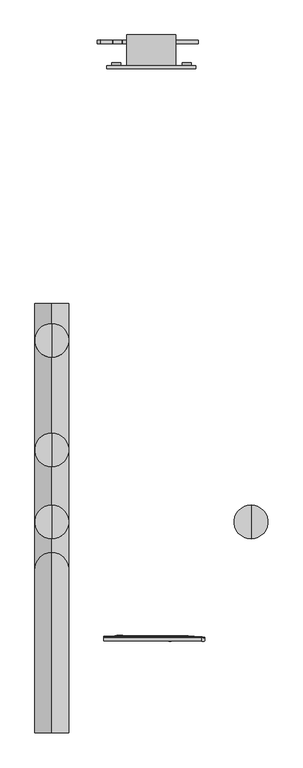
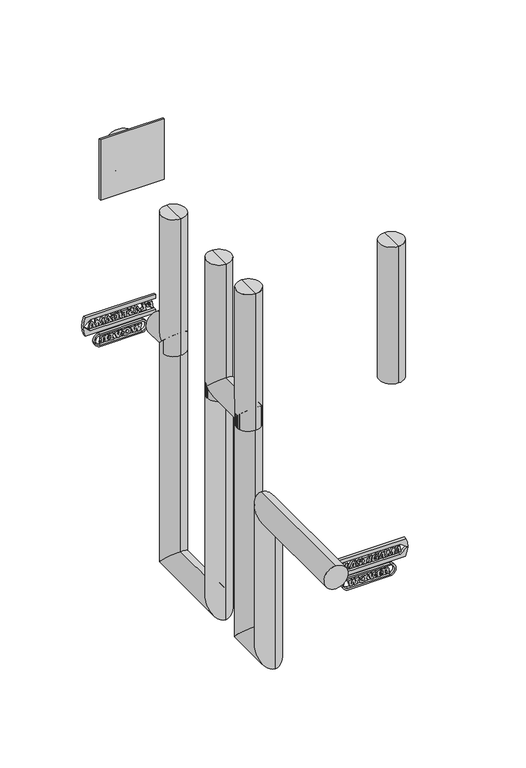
"""IFC4 building model written with IfcOpenShell, lengths in millimetres: pipe fitting geometry, Plastigama Wavin_Biotanque Séptico 4000L : 4000 Litros."""

from ifc_helpers import new_model, si_unit, point, frame, frame_2d, origin, place, context, project, spatial, polyline, circle_curve, ellipse_curve, trimmed, segment, composite_curve, outline, extrude, source, transform, mapped, element, save
from ifc_brep_helpers import plane_surface, cylinder_surface, revolved_surface, advanced_brep


def pipe_fitting_dcdf6bb8(model_context):
    return source(origin(), model_context, "Body", "SolidModel", [
        extrude(outline(composite_curve([segment(trimmed(circle_curve(frame_2d((-189.0646726, 30.0)), 30.8484834), [point((-196.25, 1e-07))], [point((-196.2500001, 60.0))], False, "CARTESIAN"), True, "CONTINUOUS"), segment(polyline([(-196.2500001, 60.0), (0.0, 60.0000001)]), True, "CONTINUOUS"), segment(trimmed(circle_curve(frame_2d((-6.6878433, 30.0000001)), 30.7364157), [point((0.0, 60.0000001))], [point((0.0, 0.0))], False, "CARTESIAN"), True, "CONTINUOUS"), segment(polyline([(0.0, 0.0), (-196.25, 1e-07)]), True, "CONTINUOUS")], self_intersect=False), holes=[composite_curve([segment(trimmed(circle_curve(frame_2d((-6.9912838, 30.3756905)), 23.114551), [point((-2.2890939, 7.7444758))], [point((-2.2890938, 53.0069052))], True, "CARTESIAN"), True, "CONTINUOUS"), segment(polyline([(-2.2890938, 53.0069052), (-193.9944284, 53.0069052)]), True, "CONTINUOUS"), segment(trimmed(circle_curve(frame_2d((-189.1280993, 30.3756905)), 23.1484996), [point((-193.9944284, 53.0069052))], [point((-193.9944284, 7.7444758))], True, "CARTESIAN"), True, "CONTINUOUS"), segment(polyline([(-193.9944284, 7.7444758), (-2.2890939, 7.7444758)]), True, "CONTINUOUS")], self_intersect=False)]), frame((-102.7823908, 1741.8070772, -132.696145), z_axis=(-0.0008784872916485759, -0.9999680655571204, 0.007943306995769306), x_axis=(-0.9999988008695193, 0.0008885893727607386, 0.0012683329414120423)), (0.0, 0.0, 1.0), 11.2802811),
        extrude(outline(polyline([(-34.1331053, 8.1810519), (-34.1331053, 0.0), (-48.2520176, 0.0), (-48.2520176, 8.1810519), (-45.4767498, 8.1810519), (-39.5431558, 30.3255262), (-28.7331703, 30.3255262), (-24.7176721, 16.3218198), (-19.3421529, 30.3255262), (-9.3421529, 30.3255263), (-2.992327, 8.1810519), (0.0, 8.1810519), (0.0, 0.0), (-15.0, 0.0), (-15.0, 8.1810519), (-12.2158905, 8.1810519), (-15.3543311, 19.1260951), (-21.2017652, 0.0), (-28.3819183, 0.0), (-34.1331054, 20.0567725), (-36.6402018, 8.1810519), (-34.1331053, 8.1810519)])), frame((41.5858435, 1740.8946298, -147.7971893), z_axis=(-0.000878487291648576, -0.9999680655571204, 0.007943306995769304), x_axis=(-0.9999988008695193, 0.0008885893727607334, 0.0012683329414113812)), (0.0, 0.0, 1.0), 10.6146407),
        extrude(outline(composite_curve([segment(polyline([(33.8509422, -0.2362593), (33.8509422, 7.596079), (45.2863425, 7.596079), (45.2863425, 5.4010288)]), True, "CONTINUOUS"), segment(trimmed(circle_curve(frame_2d((54.7764159, -7.4699474)), 15.9913578), [point((45.2863425, 5.4010288))], [point((45.2863425, -20.3409237))], False, "CARTESIAN"), True, "CONTINUOUS"), segment(polyline([(45.2863425, -20.3409237), (45.2863425, -22.6856365), (33.8509422, -22.6856365), (33.8509423, -15.2362593), (37.7421676, -15.2362593), (37.7421676, -0.2362593), (33.8509422, -0.2362593)]), True, "CONTINUOUS")], self_intersect=False), holes=[composite_curve([segment(trimmed(circle_curve(frame_2d((54.4639159, -7.4699475)), 7.2516024), [point((54.4639159, -0.2183451))], [point((54.4639159, -14.7215499))], True, "CARTESIAN"), True, "CONTINUOUS"), segment(trimmed(circle_curve(frame_2d((54.4639159, -7.4699475)), 7.2516024), [point((54.4639159, -14.7215499))], [point((54.4639159, -0.2183451))], True, "CARTESIAN"), True, "CONTINUOUS")], self_intersect=False)]), frame((-31.3310135, 1741.3557028, -155.5955693), z_axis=(-0.0008784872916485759, -0.9999680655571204, 0.007943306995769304), x_axis=(0.9999988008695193, -0.0008885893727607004, -0.0012683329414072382)), (0.0, 0.0, 1.0), 11.0735875),
        extrude(outline(polyline([(-2.6440378, 1e-07), (-2.6440378, 7.9272415), (11.9670569, 7.9272415), (11.967057, -0.2362592), (9.4673728, -0.2362593), (13.738381, -11.3626162), (18.0093893, -0.2362592), (15.3814905, -0.2362593), (15.3814905, 7.9272415), (30.3814905, 7.9272415), (30.3814904, -0.2362593), (27.2478162, -0.2362592), (18.6692538, -22.5841782), (8.6692538, -22.5841782), (0.0, 0.0), (-2.6440378, 1e-07)])), frame((-31.3310135, 1741.3557028, -155.5955693), z_axis=(-0.0008784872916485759, -0.9999680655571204, 0.007943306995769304), x_axis=(0.9999988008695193, -0.0008885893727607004, -0.0012683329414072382)), (0.0, 0.0, 1.0), 11.0735875),
        extrude(outline(polyline([(-7.9272415, 16.8316104), (0.0, 16.8316104), (0.0, 0.0), (-7.9272415, 0.0), (-7.9272415, 3.6439569), (-22.6147415, 3.6439569), (-22.6147415, 1e-07), (-30.7234026, 0.0), (-30.7234026, 16.8316104), (-22.6147415, 16.8316104), (-22.6147415, 12.918534), (-7.9272415, 12.918534), (-7.9272415, 16.8316104)])), frame((-39.3981183, 1740.8048559, -147.6534075), z_axis=(-0.0008784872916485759, -0.9999680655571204, 0.007943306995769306), x_axis=(0.0012753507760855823, 0.007942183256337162, 0.9999676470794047)), (0.0, 0.0, 1.0), 10.4525843),
        extrude(outline(composite_curve([segment(polyline([(0.0, 0.0), (-3.2801844, -1e-07), (-3.2801844, -14.2360004), (0.0, -14.2360005), (1e-07, -21.9444339), (-16.860148, -21.9444338), (-16.8601479, -14.2360005), (-12.8583229, -14.2360004), (-12.8583229, -1.5416867)]), True, "CONTINUOUS"), segment(trimmed(circle_curve(frame_2d((-17.6145903, -4.2944218)), 5.495419), [point((-12.8583229, -1.5416867))], [point((-22.3708577, -1.5416867))], True, "CARTESIAN"), True, "CONTINUOUS"), segment(polyline([(-22.3708577, -1.5416867), (-22.3708578, -21.9444339), (-35.4259917, -21.9444338), (-35.4259918, -14.9248391), (-31.6209778, -14.9248392), (-31.6209778, -1.5416867)]), True, "CONTINUOUS"), segment(trimmed(circle_curve(frame_2d((-19.773277, -3.0591523)), 11.9444848), [point((-31.6209778, -1.5416867))], [point((-11.8414658, 5.8715301))], False, "CARTESIAN"), True, "CONTINUOUS"), segment(polyline([(-11.8414658, 5.8715301), (-11.8414657, 8.1270981), (0.0, 8.1270981), (0.0, 0.0)]), True, "CONTINUOUS")], self_intersect=False)), frame((-64.1726779, 1739.8555184, -156.0033396), z_axis=(-0.0008784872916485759, -0.9999680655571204, 0.007943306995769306), x_axis=(0.9999988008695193, -0.0008885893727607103, -0.0012683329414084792)), (0.0, 0.0, 1.0), 9.5478389),
        extrude(outline(composite_curve([segment(polyline([(-18.9036564, 296.6938036), (-43.5540821, 328.2449097), (-70.312308, 296.3556977), (-70.312308, -0.6527597), (-88.1786273, -0.6527598), (-88.1786274, 320.2783114)]), True, "CONTINUOUS"), segment(trimmed(circle_curve(frame_2d((-44.7143136, 220.4821535)), 108.8504464), [point((-88.1786274, 320.2783114))], [point((0.0, 319.7245327))], False, "CARTESIAN"), True, "CONTINUOUS"), segment(polyline([(0.0, 319.7245327), (0.0, 0.0), (-18.9036564, 0.0), (-18.9036564, 296.6938036)]), True, "CONTINUOUS")], self_intersect=False)), frame((152.1039597, 1742.7080568, -31.7348131), z_axis=(-0.000878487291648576, -0.9999680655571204, 0.007943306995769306), x_axis=(0.0012753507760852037, 0.007942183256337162, 0.9999676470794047)), (0.0, 0.0, 1.0), 11.6031795),
        extrude(outline(composite_curve([segment(polyline([(-4.332192, 30.8251478), (0.0, 0.0), (-8.2737197, 0.0), (-10.3763935, 10.817319), (-20.7285738, 10.8173189)]), True, "CONTINUOUS"), segment(trimmed(circle_curve(frame_2d((-20.7285738, 20.8212334)), 10.0039144), [point((-20.7285738, 10.8173189))], [point((-20.7285738, 30.8251479))], False, "CARTESIAN"), True, "CONTINUOUS"), segment(polyline([(-20.7285738, 30.8251479), (-4.332192, 30.8251478)]), True, "CONTINUOUS")], self_intersect=False), holes=[composite_curve([segment(polyline([(-11.3887881, 16.0256373), (-13.1268956, 24.9674251), (-17.9655042, 24.9674251)]), True, "CONTINUOUS"), segment(trimmed(circle_curve(frame_2d((-16.7088179, 20.5848391)), 4.5592018), [point((-17.9655042, 24.9674251))], [point((-16.7088179, 16.0256373))], True, "CARTESIAN"), True, "CONTINUOUS"), segment(polyline([(-16.7088179, 16.0256373), (-11.3887881, 16.0256373)]), True, "CONTINUOUS")], self_intersect=False)]), frame((141.1688028, 1741.3340665, -89.3467937), z_axis=(-0.000878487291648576, -0.9999680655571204, 0.007943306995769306), x_axis=(0.9999988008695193, -0.0008885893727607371, -0.0012683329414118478)), (0.0, 0.0, 1.0), 10.6772563),
        extrude(outline(polyline([(-10.8995452, -1e-07), (-15.7717934, 30.7621641), (5.0878918, 30.7621641), (6.1998786, 23.7413552), (-4.2824174, 23.7413553), (0.0, 0.0), (-10.8995452, -1e-07)])), frame((95.132617, 1742.7316758, -58.9097224), z_axis=(-0.0008784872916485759, -0.9999680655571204, 0.007943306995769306), x_axis=(-0.9999988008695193, 0.0008885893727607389, 0.0012683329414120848)), (0.0, 0.0, 1.0), 11.7926078),
        extrude(outline(polyline([(0.0, 0.0), (-7.3290033, 0.0), (-24.0167722, 31.0334185), (-15.9588188, 31.0334184), (-11.4796914, 24.136167), (-3.9958915, 24.1361671), (-2.1477786, 31.0334184), (6.5963567, 31.0334184), (0.0, 0.0)]), holes=[polyline([(-4.6930916, 19.2382366), (-9.282557, 19.2382365), (-5.5528379, 11.0582979), (-4.6930916, 19.2382366)])]), frame((64.018782, 1743.0869542, -58.8728618), z_axis=(-0.0008784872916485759, -0.9999680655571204, 0.007943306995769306), x_axis=(-0.9999988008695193, 0.0008885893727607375, 0.0012683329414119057)), (0.0, 0.0, 1.0), 12.120249),
        extrude(outline(composite_curve([segment(polyline([(12.7137426, -6.4894217), (8.0476633, -7.7396939)]), True, "CONTINUOUS"), segment(trimmed(circle_curve(frame_2d((2.7717709, 11.9502044)), 20.3844826), [point((8.0476633, -7.7396939))], [point((0.9951462, -8.3567092))], False, "CARTESIAN"), True, "CONTINUOUS"), segment(trimmed(circle_curve(frame_2d((2.7717709, 11.9502044)), 20.3844826), [point((0.9951462, -8.3567092))], [point((-7.427458, -5.6992394))], False, "CARTESIAN"), True, "CONTINUOUS"), segment(trimmed(circle_curve(frame_2d((-3.1968098, 1.6217638)), 8.4554994), [point((-7.427458, -5.6992394))], [point((-7.427458, 8.9427669))], False, "CARTESIAN"), True, "CONTINUOUS"), segment(trimmed(circle_curve(frame_2d((5.4541897, -10.069867)), 22.9655632), [point((-7.427458, 8.9427669))], [point((-1.8730258, 11.6954497))], False, "CARTESIAN"), True, "CONTINUOUS"), segment(trimmed(circle_curve(frame_2d((-2.9769476, 14.9746224)), 3.4600025), [point((-1.8730258, 11.6954497))], [point((-2.9769476, 18.434625))], True, "CARTESIAN"), True, "CONTINUOUS"), segment(trimmed(circle_curve(frame_2d((-2.9769476, -10.5235118)), 28.9581368), [point((-2.9769476, 18.434625))], [point((-7.1467158, 18.1328438))], True, "CARTESIAN"), True, "CONTINUOUS"), segment(polyline([(-7.1467158, 18.1328438), (-11.8031787, 17.5611021), (-12.7835533, 23.1210826), (-1.0542921, 24.14726)]), True, "CONTINUOUS"), segment(trimmed(circle_curve(frame_2d((0.0, 12.0966458)), 12.0966457), [point((-1.0542921, 24.14726))], [point((10.9632843, 17.2089091))], False, "CARTESIAN"), True, "CONTINUOUS"), segment(trimmed(circle_curve(frame_2d((0.8993937, 15.2821186)), 10.2466782), [point((10.9632843, 17.2089091))], [point((4.2626893, 5.6031384))], False, "CARTESIAN"), True, "CONTINUOUS"), segment(trimmed(circle_curve(frame_2d((9.4826877, -9.4191095)), 15.9033429), [point((4.2626893, 5.6031384))], [point((-0.2838269, 3.132046))], True, "CARTESIAN"), True, "CONTINUOUS"), segment(trimmed(circle_curve(frame_2d((2.1805754, 0.7747878)), 3.4102706), [point((-0.2838269, 3.132046))], [point((1.2249696, -2.4988589))], True, "CARTESIAN"), True, "CONTINUOUS"), segment(trimmed(circle_curve(frame_2d((4.9941454, 10.4133157)), 13.4510572), [point((1.2249696, -2.4988589))], [point((11.7810709, -1.1999776))], True, "CARTESIAN"), True, "CONTINUOUS"), segment(polyline([(11.7810709, -1.1999776), (12.7137426, -6.4894217)]), True, "CONTINUOUS")], self_intersect=False)), frame((42.0481592, 1742.9359168, -82.3891812), z_axis=(-0.000878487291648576, -0.9999680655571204, 0.007943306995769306), x_axis=(0.9999988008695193, -0.0008885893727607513, -0.0012683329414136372)), (0.0, 0.0, 1.0), 12.1367128),
        extrude(outline(polyline([(-14.7964454, 16.029724), (-23.7333973, 16.029724), (-20.354468, -8.0126068), (-29.0288642, -8.0126068), (-33.2681758, 16.029724), (-42.2470344, 16.029724), (-43.1507302, 22.4598536), (-16.062117, 23.2077044), (-14.7964454, 16.029724)])), frame((42.0481592, 1742.9359168, -82.3891812), z_axis=(-0.000878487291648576, -0.9999680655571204, 0.007943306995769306), x_axis=(0.9999988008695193, -0.0008885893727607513, -0.0012683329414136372)), (0.0, 0.0, 1.0), 12.1367128),
        extrude(outline(polyline([(-46.6944716, 23.1003275), (-41.7524154, -8.1025868), (-50.4735856, -8.1025868), (-56.4862713, 22.8299997), (-46.6944716, 23.1003275)])), frame((42.0481592, 1742.9359168, -82.3891812), z_axis=(-0.000878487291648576, -0.9999680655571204, 0.007943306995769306), x_axis=(0.9999988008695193, -0.0008885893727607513, -0.0012683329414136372)), (0.0, 0.0, 1.0), 12.1367128),
        extrude(outline(composite_curve([segment(polyline([(-74.3565668, 3.2336027), (-77.7440094, 3.2336027), (-77.3106508, -0.2958194)]), True, "CONTINUOUS"), segment(trimmed(circle_curve(frame_2d((-74.69669, 0.0251346)), 2.6335912), [point((-77.3106508, -0.2958194))], [point((-74.6966901, -2.6084566))], True, "CARTESIAN"), True, "CONTINUOUS"), segment(trimmed(circle_curve(frame_2d((-73.4766928, 2.1577849)), 4.9199036), [point((-74.6966901, -2.6084566))], [point((-70.3548398, -1.644778))], True, "CARTESIAN"), True, "CONTINUOUS"), segment(trimmed(circle_curve(frame_2d((-77.4207931, 6.9618835)), 11.1356328), [point((-70.3548398, -1.644778))], [point((-71.8260664, 16.5900376))], True, "CARTESIAN"), True, "CONTINUOUS"), segment(trimmed(circle_curve(frame_2d((-76.3575671, 8.791625)), 9.0194089), [point((-71.8260664, 16.5900376))], [point((-78.5368608, 17.5437913))], True, "CARTESIAN"), True, "CONTINUOUS"), segment(polyline([(-78.5368608, 17.5437913), (-85.4705308, 16.5211907), (-86.7633388, 22.1209572), (-79.8280568, 22.9725028), (-73.8048094, 22.9725028)]), True, "CONTINUOUS"), segment(trimmed(circle_curve(frame_2d((-73.8048095, 6.3176782)), 16.6548245), [point((-73.8048094, 22.9725028))], [point((-59.6807172, 15.1433906))], False, "CARTESIAN"), True, "CONTINUOUS"), segment(trimmed(circle_curve(frame_2d((-75.305543, 5.3799159)), 18.424457), [point((-59.6807172, 15.1433906))], [point((-59.6807172, -4.3835588))], False, "CARTESIAN"), True, "CONTINUOUS"), segment(trimmed(circle_curve(frame_2d((-67.6003995, 0.5652079)), 9.3387183), [point((-59.6807172, -4.3835588))], [point((-68.9000979, -8.6826267))], False, "CARTESIAN"), True, "CONTINUOUS"), segment(polyline([(-68.9000979, -8.6826267), (-77.6936608, -8.6826266)]), True, "CONTINUOUS"), segment(trimmed(circle_curve(frame_2d((-77.6936607, 8.7925392)), 17.4751659), [point((-77.6936608, -8.6826266))], [point((-82.1203753, -8.1126558))], False, "CARTESIAN"), True, "CONTINUOUS"), segment(trimmed(circle_curve(frame_2d((-80.7914793, -4.3784573)), 3.96361), [point((-82.1203753, -8.1126558))], [point((-84.6822666, -5.1347496))], False, "CARTESIAN"), True, "CONTINUOUS"), segment(polyline([(-84.6822666, -5.1347496), (-87.2798035, 8.228419), (-74.7294058, 8.5654474), (-74.3565668, 3.2336027)]), True, "CONTINUOUS")], self_intersect=False)), frame((42.0481592, 1742.9359168, -82.3891812), z_axis=(-0.000878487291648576, -0.9999680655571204, 0.007943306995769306), x_axis=(0.9999988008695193, -0.0008885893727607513, -0.0012683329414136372)), (0.0, 0.0, 1.0), 12.1367128),
        extrude(outline(polyline([(-101.9819707, 22.1753677), (-85.574484, -8.6826266), (-94.2981877, -8.6826266), (-98.0221563, -1.6788603), (-106.1115752, -1.6788603), (-107.6002716, -8.6826267), (-116.4084529, -8.6826267), (-109.8493838, 22.1753677), (-101.9819707, 22.1753677)]), holes=[polyline([(-100.4551236, 2.8968857), (-103.8706502, 10.9433621), (-104.6265237, 2.8968857), (-100.4551236, 2.8968857)])]), frame((42.0481592, 1742.9359168, -82.3891812), z_axis=(-0.000878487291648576, -0.9999680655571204, 0.007943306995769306), x_axis=(0.9999988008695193, -0.0008885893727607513, -0.0012683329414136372)), (0.0, 0.0, 1.0), 12.1367128),
        extrude(outline(polyline([(-35.1817795, 0.0), (-42.8755416, 30.8579944), (-34.5793594, 30.8579944), (-30.3629946, 16.1537828), (-24.7185767, 30.8579944), (-19.2315156, 30.8579944), (-10.4172276, 17.285181), (-11.1285486, 30.8579943), (-1.617199, 30.8579944), (0.0, 0.0), (-7.4654929, 1e-07), (-20.8577378, 20.6222487), (-27.5583125, 0.0), (-35.1817795, 0.0)])), frame((-118.6484762, 1742.5430544, -60.0050245), z_axis=(-0.000878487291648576, -0.9999680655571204, 0.007943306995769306), x_axis=(-0.9999988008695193, 0.0008885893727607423, 0.001268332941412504)), (0.0, 0.0, 1.0), 11.4248888),
        extrude(outline(polyline([(-7.0835339, -1e-07), (-23.7062284, 31.2627414), (-15.0083886, 31.2627413), (-11.0043234, 25.0970217), (-3.5534936, 25.0970217), (-2.130025, 31.2627414), (7.2175726, 31.2627413), (0.0, 0.0), (-7.0835339, -1e-07)]), holes=[polyline([(-5.8169341, 11.5609118), (-4.7125902, 20.0764225), (-9.4315539, 20.0764225), (-5.8169341, 11.5609118)])]), frame((-141.6146018, 1740.9124283, -60.1309928), z_axis=(-0.000878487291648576, -0.9999680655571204, 0.007943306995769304), x_axis=(-0.9999988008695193, 0.0008885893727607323, 0.0012683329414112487)), (0.0, 0.0, 1.0), 9.7751399),
        extrude(outline(composite_curve([segment(trimmed(circle_curve(frame_2d((-189.0646725, 30.0)), 30.8484834), [point((-196.2499999, -1e-07))], [point((-196.25, 59.9999999))], False, "CARTESIAN"), True, "CONTINUOUS"), segment(polyline([(-196.25, 59.9999999), (1e-07, 60.0)]), True, "CONTINUOUS"), segment(trimmed(circle_curve(frame_2d((-6.6878432, 30.0)), 30.7364157), [point((1e-07, 60.0))], [point((0.0, 0.0))], False, "CARTESIAN"), True, "CONTINUOUS"), segment(polyline([(0.0, 0.0), (-196.2499999, -1e-07)]), True, "CONTINUOUS")], self_intersect=False), holes=[composite_curve([segment(trimmed(circle_curve(frame_2d((-6.9912837, 30.3756904)), 23.114551), [point((-2.2890938, 7.7444758))], [point((-2.2890938, 53.0069051))], True, "CARTESIAN"), True, "CONTINUOUS"), segment(polyline([(-2.2890938, 53.0069051), (-193.9944284, 53.0069051)]), True, "CONTINUOUS"), segment(trimmed(circle_curve(frame_2d((-189.1280993, 30.3756905)), 23.1484996), [point((-193.9944284, 53.0069051))], [point((-193.9944283, 7.7444758))], True, "CARTESIAN"), True, "CONTINUOUS"), segment(polyline([(-193.9944283, 7.7444758), (-2.2890938, 7.7444758)]), True, "CONTINUOUS")], self_intersect=False)]), frame((99.9199347, -216.0308195, -126.9022338), z_axis=(0.006265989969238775, 0.9991793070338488, 0.0400181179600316), x_axis=(0.9999796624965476, -0.00630851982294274, 0.0009365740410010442)), (0.0, 0.0, 1.0), 11.2802811),
        extrude(outline(polyline([(-34.1331053, 8.1810519), (-34.1331053, 0.0), (-48.2520175, 0.0), (-48.2520174, 8.1810519), (-45.4767498, 8.1810519), (-39.5431557, 30.3255263), (-28.7331703, 30.3255263), (-24.7176721, 16.3218199), (-19.3421528, 30.3255263), (-9.3421528, 30.3255263), (-2.992327, 8.181052), (0.0, 8.181052), (0.0, 0.0), (-15.0, 0.0), (-15.0, 8.181052), (-12.2158905, 8.1810519), (-15.3543311, 19.1260951), (-21.2017652, 0.0), (-28.3819183, 0.0), (-34.1331053, 20.0567725), (-36.6402019, 8.1810519), (-34.1331053, 8.1810519)])), frame((-44.4432498, -213.8577327, -141.9225474), z_axis=(0.0062659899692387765, 0.9991793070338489, 0.040018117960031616), x_axis=(0.9999796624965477, -0.006308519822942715, 0.0009365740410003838)), (0.0, 0.0, 1.0), 10.6146407),
        extrude(outline(composite_curve([segment(polyline([(33.8509422, -0.2362593), (33.8509422, 7.596079), (45.2863425, 7.596079), (45.2863425, 5.4010288)]), True, "CONTINUOUS"), segment(trimmed(circle_curve(frame_2d((54.7764159, -7.4699475)), 15.9913578), [point((45.2863425, 5.4010288))], [point((45.2863425, -20.3409237))], False, "CARTESIAN"), True, "CONTINUOUS"), segment(polyline([(45.2863425, -20.3409237), (45.2863425, -22.6856365), (33.8509422, -22.6856365), (33.8509422, -15.2362593), (37.7421675, -15.2362593), (37.7421676, -0.2362593), (33.8509422, -0.2362593)]), True, "CONTINUOUS")], self_intersect=False), holes=[composite_curve([segment(trimmed(circle_curve(frame_2d((54.4639159, -7.4699476)), 7.2516024), [point((54.4639159, -0.2183451))], [point((54.4639159, -14.7215499))], True, "CARTESIAN"), True, "CONTINUOUS"), segment(trimmed(circle_curve(frame_2d((54.4639159, -7.4699476)), 7.2516024), [point((54.4639159, -14.7215499))], [point((54.4639159, -0.2183451))], True, "CARTESIAN"), True, "CONTINUOUS")], self_intersect=False)]), frame((28.4690524, -214.4606513, -149.7537692), z_axis=(0.0062659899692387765, 0.9991793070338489, 0.040018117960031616), x_axis=(-0.9999796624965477, 0.0063085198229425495, -0.0009365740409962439)), (0.0, 0.0, 1.0), 11.0735875),
        extrude(outline(polyline([(-2.6440378, 1e-07), (-2.6440378, 7.9272415), (11.967057, 7.9272415), (11.9670569, -0.2362593), (9.4673727, -0.2362593), (13.738381, -11.3626163), (18.0093892, -0.2362593), (15.3814905, -0.2362593), (15.3814905, 7.9272415), (30.3814905, 7.9272415), (30.3814904, -0.2362593), (27.2478161, -0.2362593), (18.6692538, -22.5841782), (8.6692538, -22.5841783), (0.0, 0.0), (-2.6440378, 1e-07)])), frame((28.4690524, -214.4606513, -149.7537692), z_axis=(0.0062659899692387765, 0.9991793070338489, 0.040018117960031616), x_axis=(-0.9999796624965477, 0.0063085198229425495, -0.0009365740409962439)), (0.0, 0.0, 1.0), 11.0735875),
        extrude(outline(polyline([(-7.9272414, 16.8316104), (0.0, 16.8316104), (0.0, 0.0), (-7.9272415, 0.0), (-7.9272415, 3.6439569), (-22.6147415, 3.6439569), (-22.6147415, 0.0), (-30.7234025, 0.0), (-30.7234026, 16.8316104), (-22.6147414, 16.8316104), (-22.6147414, 12.9185339), (-7.9272414, 12.9185339), (-7.9272414, 16.8316104)])), frame((36.5400387, -214.2082899, -141.8004655), z_axis=(0.0062659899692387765, 0.9991793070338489, 0.040018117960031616), x_axis=(-0.0011882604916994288, -0.04001143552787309, 0.9991985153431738)), (0.0, 0.0, 1.0), 10.4525843),
        extrude(outline(composite_curve([segment(polyline([(0.0, 0.0), (-3.2801844, 0.0), (-3.2801844, -14.2360005), (1e-07, -14.2360004), (0.0, -21.9444338), (-16.8601479, -21.9444338), (-16.8601479, -14.2360004), (-12.8583229, -14.2360004), (-12.8583229, -1.5416867)]), True, "CONTINUOUS"), segment(trimmed(circle_curve(frame_2d((-17.6145903, -4.2944218)), 5.495419), [point((-12.8583229, -1.5416867))], [point((-22.3708577, -1.5416867))], True, "CARTESIAN"), True, "CONTINUOUS"), segment(polyline([(-22.3708577, -1.5416867), (-22.3708578, -21.9444339), (-35.4259918, -21.9444339), (-35.4259918, -14.9248392), (-31.6209778, -14.9248392), (-31.6209779, -1.5416867)]), True, "CONTINUOUS"), segment(trimmed(circle_curve(frame_2d((-19.773277, -3.0591523)), 11.9444848), [point((-31.6209779, -1.5416867))], [point((-11.8414657, 5.8715301))], False, "CARTESIAN"), True, "CONTINUOUS"), segment(polyline([(-11.8414657, 5.8715301), (-11.8414657, 8.1270981), (0.0, 8.1270981), (0.0, 0.0)]), True, "CONTINUOUS")], self_intersect=False)), frame((61.3182681, -213.1248577, -150.1231413), z_axis=(0.0062659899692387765, 0.9991793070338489, 0.040018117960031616), x_axis=(-0.9999796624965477, 0.006308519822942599, -0.0009365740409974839)), (0.0, 0.0, 1.0), 9.5478389),
        extrude(outline(composite_curve([segment(polyline([(-18.9036564, 296.6938035), (-43.5540821, 328.2449096), (-70.3123081, 296.3556977), (-70.3123081, -0.6527598), (-88.1786274, -0.6527598), (-88.1786274, 320.2783113)]), True, "CONTINUOUS"), segment(trimmed(circle_curve(frame_2d((-44.7143137, 220.4821535)), 108.8504464), [point((-88.1786274, 320.2783113))], [point((0.0, 319.7245327))], False, "CARTESIAN"), True, "CONTINUOUS"), segment(polyline([(0.0, 319.7245327), (0.0, 0.0), (-18.9036565, -1e-07), (-18.9036564, 296.6938035)]), True, "CONTINUOUS")], self_intersect=False)), frame((-154.9544583, -218.799082, -25.9446463), z_axis=(0.0062659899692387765, 0.9991793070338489, 0.040018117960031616), x_axis=(-0.00118826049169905, -0.04001143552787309, 0.9991985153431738)), (0.0, 0.0, 1.0), 11.6031795),
        extrude(outline(composite_curve([segment(polyline([(-4.332192, 30.825148), (0.0, 0.0), (-8.2737197, 1e-07), (-10.3763935, 10.8173191), (-20.7285739, 10.8173191)]), True, "CONTINUOUS"), segment(trimmed(circle_curve(frame_2d((-20.7285738, 20.8212335)), 10.0039144), [point((-20.7285739, 10.8173191))], [point((-20.7285738, 30.8251479))], False, "CARTESIAN"), True, "CONTINUOUS"), segment(polyline([(-20.7285738, 30.8251479), (-4.332192, 30.825148)]), True, "CONTINUOUS")], self_intersect=False), holes=[composite_curve([segment(polyline([(-11.3887881, 16.0256374), (-13.1268955, 24.9674252), (-17.9655042, 24.9674252)]), True, "CONTINUOUS"), segment(trimmed(circle_curve(frame_2d((-16.7088179, 20.5848392)), 4.5592018), [point((-17.9655042, 24.9674252))], [point((-16.7088178, 16.0256374))], True, "CARTESIAN"), True, "CONTINUOUS"), segment(polyline([(-16.7088178, 16.0256374), (-11.3887881, 16.0256374)]), True, "CONTINUOUS")], self_intersect=False)]), frame((-144.0195403, -215.6363765, -83.4862025), z_axis=(0.0062659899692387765, 0.9991793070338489, 0.040018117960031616), x_axis=(-0.9999796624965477, 0.006308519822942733, -0.00093657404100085)), (0.0, 0.0, 1.0), 10.6772563),
        extrude(outline(polyline([(-10.8995453, 1e-07), (-15.7717934, 30.7621641), (5.0878917, 30.7621641), (6.1998786, 23.7413553), (-4.2824174, 23.7413553), (0.0, 0.0), (-10.8995453, 1e-07)])), frame((-97.9875987, -218.2573703, -53.1235646), z_axis=(0.006265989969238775, 0.9991793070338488, 0.0400181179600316), x_axis=(0.9999796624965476, -0.006308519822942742, 0.0009365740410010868)), (0.0, 0.0, 1.0), 11.7926078),
        extrude(outline(polyline([(0.0, 0.0), (-7.3290033, 0.0), (-24.0167721, 31.0334184), (-15.9588188, 31.0334184), (-11.4796914, 24.136167), (-3.9958915, 24.136167), (-2.1477786, 31.0334185), (6.5963567, 31.0334184), (0.0, 0.0)]), holes=[polyline([(-4.6930917, 19.2382365), (-9.282557, 19.2382366), (-5.5528379, 11.0582979), (-4.6930917, 19.2382365)])]), frame((-66.8761244, -218.781027, -53.1075355), z_axis=(0.0062659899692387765, 0.9991793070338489, 0.040018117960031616), x_axis=(0.9999796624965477, -0.006308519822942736, 0.0009365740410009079)), (0.0, 0.0, 1.0), 12.120249),
        extrude(outline(composite_curve([segment(polyline([(12.7137427, -6.4894217), (8.0476632, -7.7396939)]), True, "CONTINUOUS"), segment(trimmed(circle_curve(frame_2d((2.7717709, 11.9502043)), 20.3844826), [point((8.0476632, -7.7396939))], [point((0.9951462, -8.3567092))], False, "CARTESIAN"), True, "CONTINUOUS"), segment(trimmed(circle_curve(frame_2d((2.7717709, 11.9502043)), 20.3844826), [point((0.9951462, -8.3567092))], [point((-7.427458, -5.6992393))], False, "CARTESIAN"), True, "CONTINUOUS"), segment(trimmed(circle_curve(frame_2d((-3.1968098, 1.6217638)), 8.4554994), [point((-7.427458, -5.6992393))], [point((-7.427458, 8.9427669))], False, "CARTESIAN"), True, "CONTINUOUS"), segment(trimmed(circle_curve(frame_2d((5.4541896, -10.069867)), 22.9655632), [point((-7.427458, 8.9427669))], [point((-1.8730258, 11.6954496))], False, "CARTESIAN"), True, "CONTINUOUS"), segment(trimmed(circle_curve(frame_2d((-2.9769476, 14.9746224)), 3.4600025), [point((-1.8730258, 11.6954496))], [point((-2.9769476, 18.4346249))], True, "CARTESIAN"), True, "CONTINUOUS"), segment(trimmed(circle_curve(frame_2d((-2.9769476, -10.5235119)), 28.9581368), [point((-2.9769476, 18.4346249))], [point((-7.1467158, 18.1328438))], True, "CARTESIAN"), True, "CONTINUOUS"), segment(polyline([(-7.1467158, 18.1328438), (-11.8031787, 17.561102), (-12.7835533, 23.1210826), (-1.0542921, 24.14726)]), True, "CONTINUOUS"), segment(trimmed(circle_curve(frame_2d((0.0, 12.0966457)), 12.0966457), [point((-1.0542921, 24.14726))], [point((10.9632842, 17.2089091))], False, "CARTESIAN"), True, "CONTINUOUS"), segment(trimmed(circle_curve(frame_2d((0.8993938, 15.2821184)), 10.2466782), [point((10.9632842, 17.2089091))], [point((4.2626894, 5.6031384))], False, "CARTESIAN"), True, "CONTINUOUS"), segment(trimmed(circle_curve(frame_2d((9.4826878, -9.4191095)), 15.9033429), [point((4.2626894, 5.6031384))], [point((-0.2838269, 3.1320461))], True, "CARTESIAN"), True, "CONTINUOUS"), segment(trimmed(circle_curve(frame_2d((2.1805754, 0.7747878)), 3.4102706), [point((-0.2838269, 3.1320461))], [point((1.2249696, -2.4988589))], True, "CARTESIAN"), True, "CONTINUOUS"), segment(trimmed(circle_curve(frame_2d((4.9941453, 10.4133157)), 13.4510572), [point((1.2249696, -2.4988589))], [point((11.781071, -1.1999776))], True, "CARTESIAN"), True, "CONTINUOUS"), segment(polyline([(11.781071, -1.1999776), (12.7137427, -6.4894217)]), True, "CONTINUOUS")], self_intersect=False)), frame((-44.9080607, -217.9938298, -76.6135529), z_axis=(0.006265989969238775, 0.9991793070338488, 0.04001811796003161), x_axis=(-0.9999796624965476, 0.0063085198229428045, -0.0009365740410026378)), (0.0, 0.0, 1.0), 12.1367128),
        extrude(outline(polyline([(-14.7964454, 16.0297239), (-23.7333973, 16.0297239), (-20.354468, -8.0126068), (-29.0288642, -8.0126069), (-33.2681759, 16.029724), (-42.2470344, 16.0297239), (-43.1507302, 22.4598537), (-16.062117, 23.2077044), (-14.7964454, 16.0297239)])), frame((-44.9080607, -217.9938298, -76.6135529), z_axis=(0.006265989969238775, 0.9991793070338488, 0.04001811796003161), x_axis=(-0.9999796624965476, 0.0063085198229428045, -0.0009365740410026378)), (0.0, 0.0, 1.0), 12.1367128),
        extrude(outline(polyline([(-46.6944716, 23.1003275), (-41.7524155, -8.1025868), (-50.4735855, -8.1025868), (-56.4862713, 22.8299997), (-46.6944716, 23.1003275)])), frame((-44.9080607, -217.9938298, -76.6135529), z_axis=(0.006265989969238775, 0.9991793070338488, 0.04001811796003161), x_axis=(-0.9999796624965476, 0.0063085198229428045, -0.0009365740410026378)), (0.0, 0.0, 1.0), 12.1367128),
        extrude(outline(composite_curve([segment(polyline([(-74.3565669, 3.2336027), (-77.7440094, 3.2336027), (-77.3106508, -0.2958194)]), True, "CONTINUOUS"), segment(trimmed(circle_curve(frame_2d((-74.69669, 0.0251346)), 2.6335912), [point((-77.3106508, -0.2958194))], [point((-74.69669, -2.6084566))], True, "CARTESIAN"), True, "CONTINUOUS"), segment(trimmed(circle_curve(frame_2d((-73.4766928, 2.1577849)), 4.9199036), [point((-74.69669, -2.6084566))], [point((-70.3548397, -1.644778))], True, "CARTESIAN"), True, "CONTINUOUS"), segment(trimmed(circle_curve(frame_2d((-77.4207931, 6.9618834)), 11.1356328), [point((-70.3548397, -1.644778))], [point((-71.8260663, 16.5900375))], True, "CARTESIAN"), True, "CONTINUOUS"), segment(trimmed(circle_curve(frame_2d((-76.3575671, 8.7916249)), 9.0194089), [point((-71.8260663, 16.5900375))], [point((-78.5368607, 17.5437913))], True, "CARTESIAN"), True, "CONTINUOUS"), segment(polyline([(-78.5368607, 17.5437913), (-85.4705308, 16.5211906), (-86.7633388, 22.1209571), (-79.8280568, 22.9725027), (-73.8048094, 22.9725027)]), True, "CONTINUOUS"), segment(trimmed(circle_curve(frame_2d((-73.8048095, 6.3176783)), 16.6548245), [point((-73.8048094, 22.9725027))], [point((-59.6807172, 15.1433906))], False, "CARTESIAN"), True, "CONTINUOUS"), segment(trimmed(circle_curve(frame_2d((-75.305543, 5.3799158)), 18.424457), [point((-59.6807172, 15.1433906))], [point((-59.6807172, -4.3835589))], False, "CARTESIAN"), True, "CONTINUOUS"), segment(trimmed(circle_curve(frame_2d((-67.6003995, 0.5652079)), 9.3387183), [point((-59.6807172, -4.3835589))], [point((-68.9000979, -8.6826266))], False, "CARTESIAN"), True, "CONTINUOUS"), segment(polyline([(-68.9000979, -8.6826266), (-77.6936608, -8.6826267)]), True, "CONTINUOUS"), segment(trimmed(circle_curve(frame_2d((-77.6936607, 8.7925392)), 17.4751659), [point((-77.6936608, -8.6826267))], [point((-82.1203753, -8.1126559))], False, "CARTESIAN"), True, "CONTINUOUS"), segment(trimmed(circle_curve(frame_2d((-80.7914793, -4.3784573)), 3.96361), [point((-82.1203753, -8.1126559))], [point((-84.6822666, -5.1347496))], False, "CARTESIAN"), True, "CONTINUOUS"), segment(polyline([(-84.6822666, -5.1347496), (-87.2798035, 8.228419), (-74.7294058, 8.5654474), (-74.3565669, 3.2336027)]), True, "CONTINUOUS")], self_intersect=False)), frame((-44.9080607, -217.9938298, -76.6135529), z_axis=(0.006265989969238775, 0.9991793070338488, 0.04001811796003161), x_axis=(-0.9999796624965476, 0.0063085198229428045, -0.0009365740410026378)), (0.0, 0.0, 1.0), 12.1367128),
        extrude(outline(polyline([(-101.9819707, 22.1753677), (-85.574484, -8.6826266), (-94.2981877, -8.6826266), (-98.0221562, -1.6788604), (-106.1115751, -1.6788604), (-107.6002716, -8.6826267), (-116.4084529, -8.6826266), (-109.8493838, 22.1753676), (-101.9819707, 22.1753677)]), holes=[polyline([(-100.4551236, 2.8968856), (-103.8706501, 10.9433621), (-104.6265237, 2.8968856), (-100.4551236, 2.8968856)])]), frame((-44.9080607, -217.9938298, -76.6135529), z_axis=(0.006265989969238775, 0.9991793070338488, 0.04001811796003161), x_axis=(-0.9999796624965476, 0.0063085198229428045, -0.0009365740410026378)), (0.0, 0.0, 1.0), 12.1367128),
        extrude(outline(polyline([(-35.1817795, 0.0), (-42.8755416, 30.8579944), (-34.5793595, 30.8579944), (-30.3629947, 16.1537828), (-24.7185767, 30.8579943), (-19.2315157, 30.8579944), (-10.4172276, 17.2851809), (-11.1285486, 30.8579944), (-1.617199, 30.8579944), (0.0, 0.0), (-7.4654929, 0.0), (-20.8577378, 20.6222487), (-27.5583126, 0.0), (-35.1817795, 0.0)])), frame((115.7912649, -219.1837919, -54.2769422), z_axis=(0.006265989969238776, 0.9991793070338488, 0.04001811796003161), x_axis=(0.9999796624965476, -0.006308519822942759, 0.0009365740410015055)), (0.0, 0.0, 1.0), 11.4248888),
        extrude(outline(polyline([(-7.083534, 0.0), (-23.7062284, 31.2627414), (-15.0083886, 31.2627414), (-11.0043235, 25.0970218), (-3.5534936, 25.0970219), (-2.1300251, 31.2627414), (7.2175725, 31.2627414), (0.0, 0.0), (-7.083534, 0.0)]), holes=[polyline([(-5.8169341, 11.560912), (-4.7125903, 20.0764227), (-9.4315539, 20.0764226), (-5.8169341, 11.560912)])]), frame((138.7658244, -217.6735387, -54.3574843), z_axis=(0.0062659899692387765, 0.9991793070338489, 0.040018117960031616), x_axis=(0.9999796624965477, -0.00630851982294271, 0.0009365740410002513)), (0.0, 0.0, 1.0), 9.7751399),
        advanced_brep(
        [(75.0, 1659.3, 720.0), (-75.0, 1659.3, 720.0), (-80.0, 1659.3, 720.0), (80.0, 1659.3, 720.0), (75.0, 1759.3, 720.0), (-75.0, 1759.3, 720.0), (80.0, 1759.3, 720.0), (-80.0, 1759.3, 720.0)],
        [
            (0, 1, circle_curve(frame((0.0, 1659.3, 720.0), z_axis=(0.0, 1.0, 0.0), x_axis=(-1.0, 0.0, 0.0)), 75.0)),
            (1, 2),
            (2, 3, circle_curve(frame((0.0, 1659.3, 720.0), z_axis=(0.0, -1.0, 0.0), x_axis=(-1.0, 0.0, 0.0)), 80.0)),
            (3, 0),
            (1, 0, circle_curve(frame((0.0, 1659.3, 720.0), z_axis=(0.0, 1.0, 0.0), x_axis=(-1.0, 0.0, 0.0)), 75.0)),
            (3, 2, circle_curve(frame((0.0, 1659.3, 720.0), z_axis=(0.0, -1.0, 0.0), x_axis=(-1.0, 0.0, 0.0)), 80.0)),
            (4, 5, circle_curve(frame((0.0, 1759.3, 720.0), z_axis=(0.0, 1.0, 0.0), x_axis=(-1.0, 0.0, 0.0)), 75.0)),
            (5, 1),
            (0, 4),
            (5, 4, circle_curve(frame((0.0, 1759.3, 720.0), z_axis=(0.0, 1.0, 0.0), x_axis=(-1.0, 0.0, 0.0)), 75.0)),
            (6, 7, circle_curve(frame((0.0, 1759.3, 720.0), z_axis=(0.0, 1.0, 0.0), x_axis=(-1.0, 0.0, 0.0)), 80.0)),
            (7, 5),
            (4, 6),
            (7, 6, circle_curve(frame((0.0, 1759.3, 720.0), z_axis=(0.0, 1.0, 0.0), x_axis=(-1.0, 0.0, 0.0)), 80.0)),
            (2, 7),
            (6, 3),
        ],
        [
            plane_surface(frame((0.0, 1659.3, 720.0), z_axis=(0.0, -1.0, 0.0), x_axis=(-1.0, 0.0, 0.0))),
            revolved_surface(polyline([(-75.0, 1659.3, 720.0), (-75.0, 1759.3, 720.0)]), (0.0, 1759.3, 720.0), (0.0, -1.0, 0.0)),
            plane_surface(frame((0.0, 1759.3, 720.0), z_axis=(0.0, 1.0, 0.0), x_axis=(-1.0, 0.0, 0.0))),
            cylinder_surface(frame((0.0, 1759.3, 720.0), z_axis=(0.0, -1.0, 0.0), x_axis=(-1.0, 0.0, 0.0)), 80.0),
        ],
        [
            (0, [[1, 2, 3, 4]]),
            (0, [[5, -4, 6, -2]]),
            (1, [[7, 8, -1, 9]]),
            (1, [[10, -9, -5, -8]]),
            (2, [[11, 12, -7, 13]]),
            (2, [[14, -13, -10, -12]]),
            (3, [[-3, 15, -11, 16]]),
            (3, [[-6, -16, -14, -15]]),
        ],
    ),
        extrude(outline(composite_curve([segment(trimmed(circle_curve(frame_2d((835.0, -115.0)), 15.0), [point((835.0, -130.0))], [point((835.0, -100.0))], False, "CARTESIAN"), True, "CONTINUOUS"), segment(trimmed(circle_curve(frame_2d((835.0, -115.0)), 15.0), [point((835.0, -100.0))], [point((835.0, -130.0))], False, "CARTESIAN"), True, "CONTINUOUS")], self_intersect=False)), frame((0.0, 1659.3, 0.0), z_axis=(0.0, 1.0, 0.0), x_axis=(0.0, 0.0, 1.0)), (0.0, 0.0, 1.0), 10.0),
        extrude(outline(composite_curve([segment(trimmed(circle_curve(frame_2d((835.0, 115.0)), 15.0), [point((835.0, 100.0))], [point((835.0, 130.0))], False, "CARTESIAN"), True, "CONTINUOUS"), segment(trimmed(circle_curve(frame_2d((835.0, 115.0)), 15.0), [point((835.0, 130.0))], [point((835.0, 100.0))], False, "CARTESIAN"), True, "CONTINUOUS")], self_intersect=False)), frame((0.0, 1659.3, 0.0), z_axis=(0.0, 1.0, 0.0), x_axis=(0.0, 0.0, 1.0)), (0.0, 0.0, 1.0), 10.0),
        extrude(outline(composite_curve([segment(trimmed(circle_curve(frame_2d((605.0, -115.0)), 15.0), [point((605.0, -130.0))], [point((605.0, -100.0))], False, "CARTESIAN"), True, "CONTINUOUS"), segment(trimmed(circle_curve(frame_2d((605.0, -115.0)), 15.0), [point((605.0, -100.0))], [point((605.0, -130.0))], False, "CARTESIAN"), True, "CONTINUOUS")], self_intersect=False)), frame((0.0, 1659.3, 0.0), z_axis=(0.0, 1.0, 0.0), x_axis=(0.0, 0.0, 1.0)), (0.0, 0.0, 1.0), 10.0),
        extrude(outline(composite_curve([segment(trimmed(circle_curve(frame_2d((605.0, 115.0)), 15.0), [point((605.0, 100.0))], [point((605.0, 130.0))], False, "CARTESIAN"), True, "CONTINUOUS"), segment(trimmed(circle_curve(frame_2d((605.0, 115.0)), 15.0), [point((605.0, 130.0))], [point((605.0, 100.0))], False, "CARTESIAN"), True, "CONTINUOUS")], self_intersect=False)), frame((0.0, 1659.3, 0.0), z_axis=(0.0, 1.0, 0.0), x_axis=(0.0, 0.0, 1.0)), (0.0, 0.0, 1.0), 10.0),
        extrude(outline(polyline([(-145.0, 1659.3), (145.0, 1659.3), (145.0, 1649.3), (-145.0, 1649.3), (-145.0, 1659.3)])), frame((0.0, 0.0, 575.0), z_axis=(0.0, 0.0, 1.0), x_axis=(1.0, 0.0, 0.0)), (0.0, 0.0, 1.0), 290.0),
        advanced_brep(
        [(-325.0, 114.24, 463.1), (-325.0, 224.24, 463.1), (-325.0, 169.24, 463.1), (-325.0, 114.24, 1119.3), (-325.0, 224.24, 1119.3), (-325.0, 169.24, 1119.3)],
        [
            (0, 1, circle_curve(frame((-325.0, 169.24, 463.1), z_axis=(0.0, 0.0, -1.0), x_axis=(0.0, 1.0, 0.0)), 55.0)),
            (1, 2),
            (2, 0),
            (1, 0, circle_curve(frame((-325.0, 169.24, 463.1), z_axis=(0.0, 0.0, -1.0), x_axis=(0.0, 1.0, 0.0)), 55.0)),
            (3, 4, circle_curve(frame((-325.0, 169.24, 1119.3), z_axis=(0.0, 0.0, -1.0), x_axis=(0.0, 1.0, 0.0)), 55.0)),
            (4, 1),
            (0, 3),
            (4, 3, circle_curve(frame((-325.0, 169.24, 1119.3), z_axis=(0.0, 0.0, -1.0), x_axis=(0.0, 1.0, 0.0)), 55.0)),
            (5, 4),
            (3, 5),
        ],
        [
            plane_surface(frame((-325.0, 169.24, 463.1), z_axis=(0.0, 0.0, -1.0), x_axis=(0.0, 1.0, 0.0))),
            cylinder_surface(frame((-325.0, 169.24, 1105.7427055), z_axis=(0.0, 0.0, 1.0), x_axis=(0.0, 1.0, 0.0)), 55.0),
            plane_surface(frame((-325.0, 169.24, 1119.3), z_axis=(0.0, 0.0, 1.0), x_axis=(0.0, 1.0, 0.0))),
        ],
        [
            (0, [[1, 2, 3]]),
            (0, [[4, -3, -2]]),
            (1, [[5, 6, -1, 7]]),
            (1, [[8, -7, -4, -6]]),
            (2, [[9, -5, 10]]),
            (2, [[-10, -8, -9]]),
        ],
    ),
        advanced_brep(
        [(-325.0, 707.15, 463.1), (-325.0, 817.15, 463.1), (-325.0, 762.15, 463.1), (-325.0, 707.15, 1119.3), (-325.0, 817.15, 1119.3), (-325.0, 762.15, 1119.3)],
        [
            (0, 1, circle_curve(frame((-325.0, 762.15, 463.1), z_axis=(0.0, 0.0, -1.0), x_axis=(0.0, 1.0, 0.0)), 55.0)),
            (1, 2),
            (2, 0),
            (1, 0, circle_curve(frame((-325.0, 762.15, 463.1), z_axis=(0.0, 0.0, -1.0), x_axis=(0.0, 1.0, 0.0)), 55.0)),
            (3, 4, circle_curve(frame((-325.0, 762.15, 1119.3), z_axis=(0.0, 0.0, -1.0), x_axis=(0.0, 1.0, 0.0)), 55.0)),
            (4, 1),
            (0, 3),
            (4, 3, circle_curve(frame((-325.0, 762.15, 1119.3), z_axis=(0.0, 0.0, -1.0), x_axis=(0.0, 1.0, 0.0)), 55.0)),
            (5, 4),
            (3, 5),
        ],
        [
            plane_surface(frame((-325.0, 762.15, 463.1), z_axis=(0.0, 0.0, -1.0), x_axis=(0.0, 1.0, 0.0))),
            cylinder_surface(frame((-325.0, 762.15, 1115.3167923), z_axis=(0.0, 0.0, 1.0), x_axis=(0.0, 1.0, 0.0)), 55.0),
            plane_surface(frame((-325.0, 762.15, 1119.3), z_axis=(0.0, 0.0, 1.0), x_axis=(0.0, 1.0, 0.0))),
        ],
        [
            (0, [[1, 2, 3]]),
            (0, [[4, -3, -2]]),
            (1, [[5, 6, -1, 7]]),
            (1, [[8, -7, -4, -6]]),
            (2, [[9, -5, 10]]),
            (2, [[-10, -8, -9]]),
        ],
    ),
        advanced_brep(
        [(-325.0, 349.24, 1119.3), (-325.0, 459.24, 1119.3), (-325.0, 459.24, 463.1), (-325.0, 349.24, 463.1), (-325.0, 404.24, 1119.3), (-325.0, 404.24, 463.1)],
        [
            (0, 1, circle_curve(frame((-325.0, 404.24, 1119.3), z_axis=(0.0, 0.0, -1.0), x_axis=(0.0, 1.0, 0.0)), 55.0)),
            (1, 2),
            (2, 3, circle_curve(frame((-325.0, 404.24, 463.1), z_axis=(0.0, 0.0, 1.0), x_axis=(0.0, 1.0, 0.0)), 55.0)),
            (3, 0),
            (1, 0, circle_curve(frame((-325.0, 404.24, 1119.3), z_axis=(0.0, 0.0, -1.0), x_axis=(0.0, 1.0, 0.0)), 55.0)),
            (3, 2, circle_curve(frame((-325.0, 404.24, 463.1), z_axis=(0.0, 0.0, 1.0), x_axis=(0.0, 1.0, 0.0)), 55.0)),
            (4, 1),
            (0, 4),
            (2, 5),
            (5, 3),
        ],
        [
            cylinder_surface(frame((-325.0, 404.24, 463.1), z_axis=(0.0, 0.0, 1.0), x_axis=(0.0, 1.0, 0.0)), 55.0),
            plane_surface(frame((-325.0, 404.24, 1119.3), z_axis=(0.0, 0.0, 1.0), x_axis=(0.0, 1.0, 0.0))),
            plane_surface(frame((-325.0, 404.24, 463.1), z_axis=(0.0, 0.0, -1.0), x_axis=(0.0, 1.0, 0.0))),
        ],
        [
            (0, [[1, 2, 3, 4]]),
            (0, [[5, -4, 6, -2]]),
            (1, [[7, -1, 8]]),
            (1, [[-8, -5, -7]]),
            (2, [[-3, 9, 10]]),
            (2, [[-6, -10, -9]]),
        ],
    ),
        advanced_brep(
        [(-325.0, 882.15, 573.1), (-325.0, 882.15, 463.1), (-325.0, 707.15, 573.1), (-325.0, 817.15, 463.1), (-325.0, 707.15, -480.0), (-325.0, 817.15, -590.0), (-325.0, 459.2322118, -480.0), (-325.0, 349.2322118, -590.0), (-325.0, 459.2322118, 573.1), (-325.0, 349.2322118, 463.1), (-325.0, 114.2322118, 573.1), (-325.0, 224.2322118, 463.1), (-325.0, 114.2322118, -480.0), (-325.0, 224.2322118, -590.0), (-325.0, 69.2322118, -480.0), (-325.0, -40.7677882, -590.0), (-325.0, 69.2322118, 195.5), (-325.0, -40.7677882, 85.5), (-325.0, -518.2, 195.5), (-325.0, -518.2, 85.5)],
        [
            (0, 1, circle_curve(frame((-325.0, 882.15, 518.1), z_axis=(0.0, 1.0, 0.0), x_axis=(0.0, 0.0, -1.0)), 55.0)),
            (1, 0, circle_curve(frame((-325.0, 882.15, 518.1), z_axis=(0.0, 1.0, 0.0), x_axis=(0.0, 0.0, -1.0)), 55.0)),
            (0, 2),
            (2, 3, ellipse_curve(frame((-325.0, 762.15, 518.1), z_axis=(0.0, 0.7071067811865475, 0.7071067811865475), x_axis=(0.0, 0.7071067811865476, -0.7071067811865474)), 77.7817459, 55.0)),
            (3, 1),
            (3, 2, ellipse_curve(frame((-325.0, 762.15, 518.1), z_axis=(0.0, 0.7071067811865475, 0.7071067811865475), x_axis=(0.0, 0.7071067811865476, -0.7071067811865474)), 77.7817459, 55.0)),
            (2, 4),
            (4, 5, ellipse_curve(frame((-325.0, 762.15, -535.0), z_axis=(0.0, 0.7071067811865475, 0.7071067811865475), x_axis=(0.0, -0.7071067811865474, 0.7071067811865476)), 77.7817459, 55.0)),
            (5, 3),
            (5, 4, ellipse_curve(frame((-325.0, 762.15, -535.0), z_axis=(0.0, 0.7071067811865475, 0.7071067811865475), x_axis=(0.0, -0.7071067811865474, 0.7071067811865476)), 77.7817459, 55.0)),
            (4, 6),
            (6, 7, ellipse_curve(frame((-325.0, 404.2322118, -535.0), z_axis=(0.0, 0.7071067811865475, -0.7071067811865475), x_axis=(0.0, 0.7071067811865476, 0.7071067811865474)), 77.7817459, 55.0)),
            (7, 5),
            (7, 6, ellipse_curve(frame((-325.0, 404.2322118, -535.0), z_axis=(0.0, 0.7071067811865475, -0.7071067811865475), x_axis=(0.0, 0.7071067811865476, 0.7071067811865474)), 77.7817459, 55.0)),
            (6, 8),
            (8, 9, ellipse_curve(frame((-325.0, 404.2322118, 518.1), z_axis=(0.0, 0.7071067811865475, -0.7071067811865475), x_axis=(0.0, -0.7071067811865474, -0.7071067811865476)), 77.7817459, 55.0)),
            (9, 7),
            (9, 8, ellipse_curve(frame((-325.0, 404.2322118, 518.1), z_axis=(0.0, 0.7071067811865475, -0.7071067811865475), x_axis=(0.0, -0.7071067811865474, -0.7071067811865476)), 77.7817459, 55.0)),
            (8, 10),
            (10, 11, ellipse_curve(frame((-325.0, 169.2322118, 518.1), z_axis=(0.0, 0.7071067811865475, 0.7071067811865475), x_axis=(0.0, 0.7071067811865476, -0.7071067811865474)), 77.7817459, 55.0)),
            (11, 9),
            (11, 10, ellipse_curve(frame((-325.0, 169.2322118, 518.1), z_axis=(0.0, 0.7071067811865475, 0.7071067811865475), x_axis=(0.0, 0.7071067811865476, -0.7071067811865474)), 77.7817459, 55.0)),
            (10, 12),
            (12, 13, ellipse_curve(frame((-325.0, 169.2322118, -535.0), z_axis=(0.0, 0.7071067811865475, 0.7071067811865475), x_axis=(0.0, -0.7071067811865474, 0.7071067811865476)), 77.7817459, 55.0)),
            (13, 11),
            (13, 12, ellipse_curve(frame((-325.0, 169.2322118, -535.0), z_axis=(0.0, 0.7071067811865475, 0.7071067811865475), x_axis=(0.0, -0.7071067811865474, 0.7071067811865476)), 77.7817459, 55.0)),
            (12, 14),
            (14, 15, ellipse_curve(frame((-325.0, 14.2322118, -535.0), z_axis=(0.0, 0.7071067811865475, -0.7071067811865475), x_axis=(0.0, 0.7071067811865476, 0.7071067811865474)), 77.7817459, 55.0)),
            (15, 13),
            (15, 14, ellipse_curve(frame((-325.0, 14.2322118, -535.0), z_axis=(0.0, 0.7071067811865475, -0.7071067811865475), x_axis=(0.0, 0.7071067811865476, 0.7071067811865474)), 77.7817459, 55.0)),
            (14, 16),
            (16, 17, ellipse_curve(frame((-325.0, 14.2322118, 140.5), z_axis=(0.0, 0.7071067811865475, -0.7071067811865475), x_axis=(0.0, -0.7071067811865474, -0.7071067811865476)), 77.7817459, 55.0)),
            (17, 15),
            (17, 16, ellipse_curve(frame((-325.0, 14.2322118, 140.5), z_axis=(0.0, 0.7071067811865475, -0.7071067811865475), x_axis=(0.0, -0.7071067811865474, -0.7071067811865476)), 77.7817459, 55.0)),
            (18, 19, circle_curve(frame((-325.0, -518.2, 140.5), z_axis=(0.0, -1.0, 0.0), x_axis=(0.0, 0.0, -1.0)), 55.0)),
            (19, 18, circle_curve(frame((-325.0, -518.2, 140.5), z_axis=(0.0, -1.0, 0.0), x_axis=(0.0, 0.0, -1.0)), 55.0)),
            (16, 18),
            (19, 17),
        ],
        [
            plane_surface(frame((-605.0, 882.15, 518.1), z_axis=(0.0, 1.0, 0.0), x_axis=(1.0, 0.0, 0.0))),
            cylinder_surface(frame((-325.0, 882.15, 518.1), z_axis=(0.0, 1.0, 0.0), x_axis=(0.0, 0.0, -1.0)), 55.0),
            cylinder_surface(frame((-325.0, 762.15, 518.1), z_axis=(0.0, 0.0, 1.0), x_axis=(0.0, 1.0, 0.0)), 55.0),
            cylinder_surface(frame((-325.0, 762.15, -535.0), z_axis=(0.0, 1.0, 0.0), x_axis=(0.0, 0.0, -1.0)), 55.0),
            cylinder_surface(frame((-325.0, 404.2322118, -535.0), z_axis=(0.0, 0.0, -1.0), x_axis=(0.0, -1.0, 0.0)), 55.0),
            cylinder_surface(frame((-325.0, 404.2322118, 518.1), z_axis=(0.0, 1.0, 0.0), x_axis=(0.0, 0.0, -1.0)), 55.0),
            cylinder_surface(frame((-325.0, 169.2322118, 518.1), z_axis=(0.0, 0.0, 1.0), x_axis=(0.0, 1.0, 0.0)), 55.0),
            cylinder_surface(frame((-325.0, 169.2322118, -535.0), z_axis=(0.0, 1.0, 0.0), x_axis=(0.0, 0.0, -1.0)), 55.0),
            cylinder_surface(frame((-325.0, 14.2322118, -535.0), z_axis=(0.0, 0.0, -1.0), x_axis=(0.0, -1.0, 0.0)), 55.0),
            plane_surface(frame((-605.0, -518.2, 140.5), z_axis=(0.0, -1.0, 0.0), x_axis=(1.0, 0.0, 0.0))),
            cylinder_surface(frame((-325.0, 14.2322118, 140.5), z_axis=(0.0, 1.0, 0.0), x_axis=(0.0, 0.0, -1.0)), 55.0),
        ],
        [
            (0, [[1, 2]]),
            (1, [[-1, 3, 4, 5]]),
            (1, [[-2, -5, 6, -3]]),
            (2, [[-4, 7, 8, 9]]),
            (2, [[-6, -9, 10, -7]]),
            (3, [[-8, 11, 12, 13]]),
            (3, [[-10, -13, 14, -11]]),
            (4, [[-12, 15, 16, 17]]),
            (4, [[-14, -17, 18, -15]]),
            (5, [[-16, 19, 20, 21]]),
            (5, [[-18, -21, 22, -19]]),
            (6, [[-20, 23, 24, 25]]),
            (6, [[-22, -25, 26, -23]]),
            (7, [[-24, 27, 28, 29]]),
            (7, [[-26, -29, 30, -27]]),
            (8, [[-28, 31, 32, 33]]),
            (8, [[-30, -33, 34, -31]]),
            (9, [[35, 36]]),
            (10, [[-32, 37, -36, 38]]),
            (10, [[-34, -38, -35, -37]]),
        ],
    ),
        advanced_brep(
        [(325.0000006, 114.24, 463.1), (325.0000006, 224.24, 463.1), (325.0000006, 169.24, 463.1), (325.0000006, 114.24, 1119.3), (325.0000006, 224.24, 1119.3), (325.0000006, 169.24, 1119.3)],
        [
            (0, 1, circle_curve(frame((325.0000006, 169.24, 463.1), z_axis=(0.0, 0.0, -1.0), x_axis=(0.0, 1.0, 0.0)), 55.0)),
            (1, 2),
            (2, 0),
            (1, 0, circle_curve(frame((325.0000006, 169.24, 463.1), z_axis=(0.0, 0.0, -1.0), x_axis=(0.0, 1.0, 0.0)), 55.0)),
            (3, 4, circle_curve(frame((325.0000006, 169.24, 1119.3), z_axis=(0.0, 0.0, -1.0), x_axis=(0.0, 1.0, 0.0)), 55.0)),
            (4, 1),
            (0, 3),
            (4, 3, circle_curve(frame((325.0000006, 169.24, 1119.3), z_axis=(0.0, 0.0, -1.0), x_axis=(0.0, 1.0, 0.0)), 55.0)),
            (5, 4),
            (3, 5),
        ],
        [
            plane_surface(frame((325.0000006, 169.24, 463.1), z_axis=(0.0, 0.0, -1.0), x_axis=(0.0, 1.0, 0.0))),
            cylinder_surface(frame((325.0000006, 169.24, 1105.7427055), z_axis=(0.0, 0.0, 1.0), x_axis=(0.0, 1.0, 0.0)), 55.0),
            plane_surface(frame((325.0000006, 169.24, 1119.3), z_axis=(0.0, 0.0, 1.0), x_axis=(0.0, 1.0, 0.0))),
        ],
        [
            (0, [[1, 2, 3]]),
            (0, [[4, -3, -2]]),
            (1, [[5, 6, -1, 7]]),
            (1, [[8, -7, -4, -6]]),
            (2, [[9, -5, 10]]),
            (2, [[-10, -8, -9]]),
        ],
    ),
    ])


if __name__ == "__main__":
    model = new_model("IFC4")
    model_context = context("Model", 3, world=origin())
    ifc_project = project(units=[si_unit("LENGTHUNIT", "METRE", prefix="MILLI")], contexts=[model_context])
    site = spatial("IfcSite", under=ifc_project)
    building = spatial("IfcBuilding", under=site)
    placement = place(None, origin())
    pipe_fitting_shape = pipe_fitting_dcdf6bb8(model_context)
    element("IfcPipeFitting", 1, ObjectType="Plastigama Wavin_Biotanque Séptico 4000L : 4000 Litros", at=placement, inside=building, context=model_context, shape_type="MappedRepresentation", body=[
        mapped(pipe_fitting_shape, transform((0.0, 0.0, 0.0), x_axis=(1.0, 0.0, 0.0), y_axis=(0.0, 1.0, 0.0), z_axis=(0.0, 0.0, 1.0))),
    ])
    save(model, "model.ifc")
